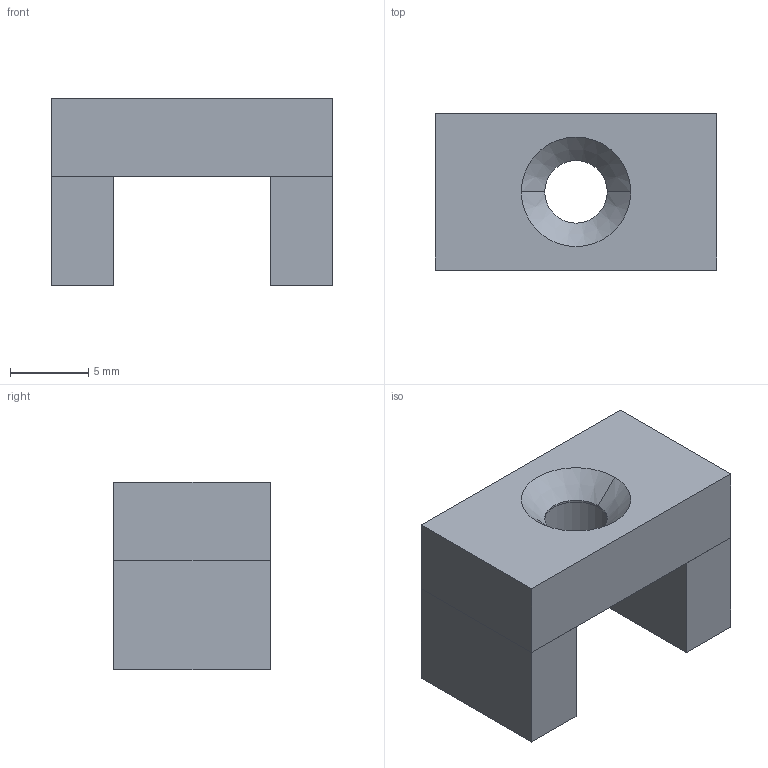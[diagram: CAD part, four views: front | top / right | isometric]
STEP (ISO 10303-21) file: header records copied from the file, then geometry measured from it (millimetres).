
FILE_DESCRIPTION(('STEP AP214'),'1');
FILE_NAME('tmp0.STEP','2025-11-28T22:26:01',(' '),(' '),'Spatial InterOp 3D',' ',' ');
FILE_SCHEMA(('AUTOMOTIVE_DESIGN { 1 0 10303 214 1 1 1 1 }'));
Length unit declared in the file: millimetre
Products named in the file (1): 1
Bounding box: 18 x 10 x 12 mm (x, y, z)
Volume: 1335.4 mm3; surface area: 1234.9 mm2
Topology: 3 solids, 3 shells, 26 faces, 54 edges, 34 vertices
Faces by surface type: plane 18, cylinder 4, cone 4
Entity records: 733 total; most frequent: DIRECTION 122, CARTESIAN_POINT 117, ORIENTED_EDGE 108, EDGE_CURVE 54, LINE 44, VECTOR 44, AXIS2_PLACEMENT_3D 39, VERTEX_POINT 34
